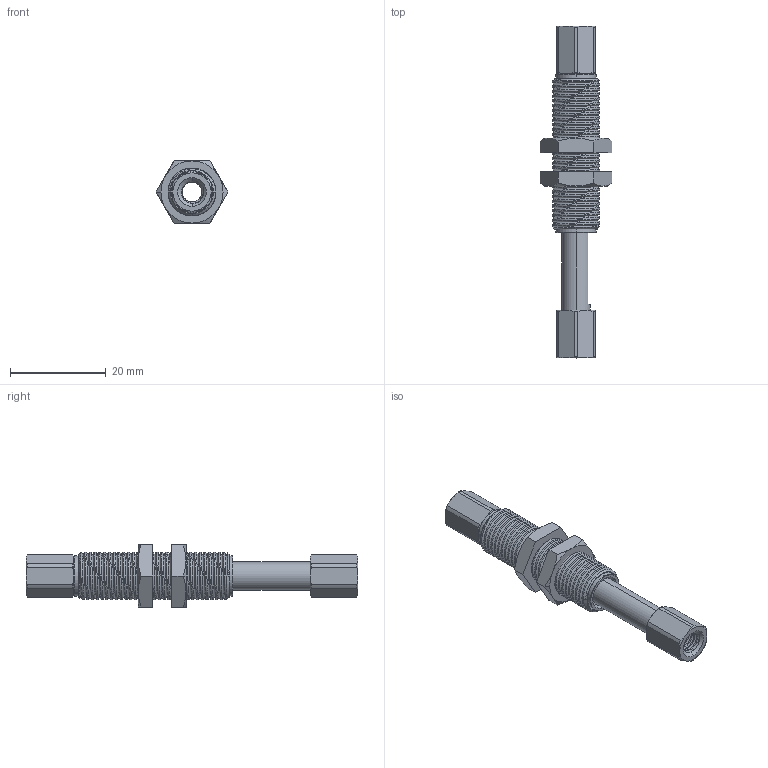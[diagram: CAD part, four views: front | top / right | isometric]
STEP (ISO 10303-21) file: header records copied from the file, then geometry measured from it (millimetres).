
FILE_DESCRIPTION (( 'STEP AP203' ), '1' );
FILE_NAME ('bln04-4bt15nk67-m5_asm〞〞TOC.STEP', '2024-10-17T03:12:39', ( '' ), ( '' ), 'SwSTEP 2.0', 'SolidWorks 2022', '' );
FILE_SCHEMA (( 'CONFIG_CONTROL_DESIGN' ));
Length unit declared in the file: millimetre
Products named in the file (1): bln04-4bt15nk67-m5_asm——TOC
Bounding box: 15.01 x 69.5 x 13 mm (x, y, z)
Surface area: 3585.3 mm2 (no closed solid volume)
Topology: 0 solids, 9 shells, 222 faces, 638 edges, 424 vertices
Faces by surface type: cylinder 88, cone 72, plane 39, bspline 23
Entity records: 16685 total; most frequent: CARTESIAN_POINT 11479, ORIENTED_EDGE 1143, DIRECTION 854, EDGE_CURVE 638, VERTEX_POINT 424, AXIS2_PLACEMENT_3D 344, B_SPLINE_CURVE_WITH_KNOTS 328, EDGE_LOOP 233
